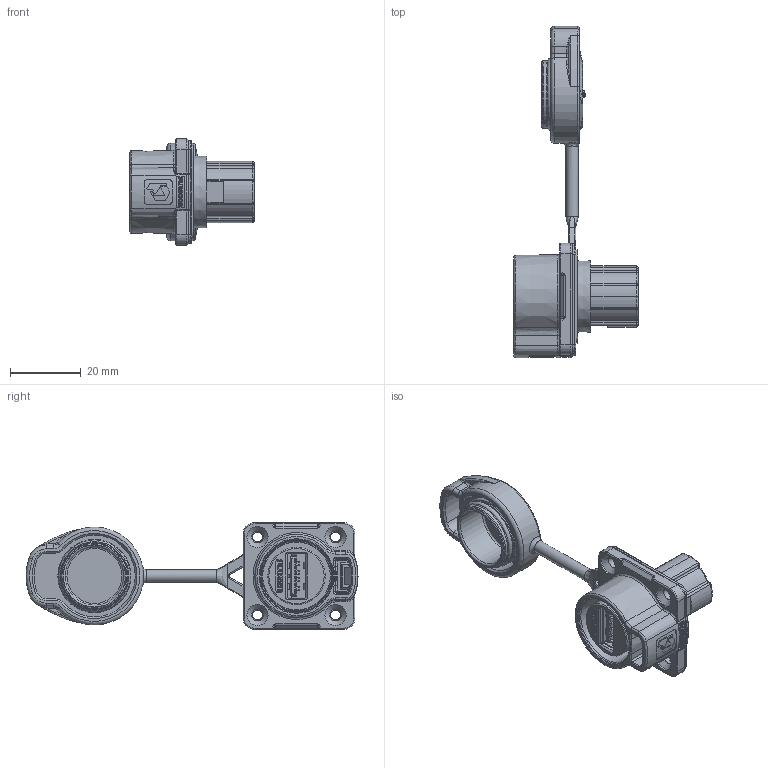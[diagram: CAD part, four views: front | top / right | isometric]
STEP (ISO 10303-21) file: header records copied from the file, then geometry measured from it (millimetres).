
FILE_DESCRIPTION (( 'STEP AP203' ), '1' );
FILE_NAME ('PLG20 USB2.0²å×ù.STEP', '2025-03-20T11:20:10', ( '' ), ( '' ), 'SwSTEP 2.0', 'SolidWorks 2024', '' );
FILE_SCHEMA (( 'CONFIG_CONTROL_DESIGN' ));
Length unit declared in the file: millimetre
Products named in the file (1): PLG20 USB2.0插座
Bounding box: 35 x 93.64 x 30 mm (x, y, z)
Volume: 13792.6 mm3; surface area: 14005.4 mm2
Topology: 1 solids, 13 shells, 2770 faces, 7185 edges, 4518 vertices
Faces by surface type: plane 1301, cylinder 766, bspline 408, torus 207, cone 71, sphere 17
Full cylindrical faces by diameter (mm): 1.061 x1, 2.088 x1, 2.8 x4, 3.3 x4, 3.5 x1, 6 x4, 16.5 x1, 19.1 x4, 22.3 x1, 23.5 x1, 25 x1
Entity records: 93523 total; most frequent: CARTESIAN_POINT 29324, ORIENTED_EDGE 14166, DIRECTION 12107, EDGE_CURVE 7083, VERTEX_POINT 4496, AXIS2_PLACEMENT_3D 4048, LINE 4011, VECTOR 4011
